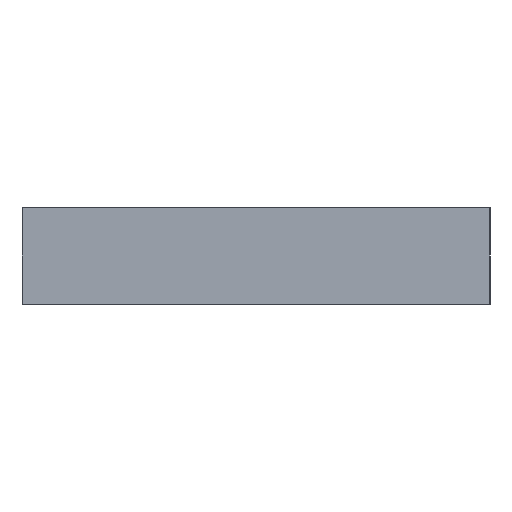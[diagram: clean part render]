
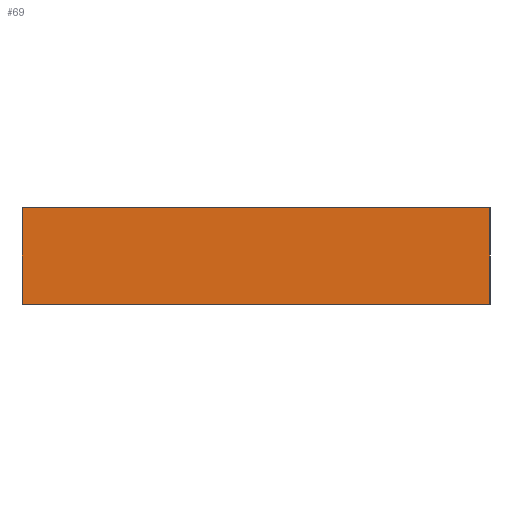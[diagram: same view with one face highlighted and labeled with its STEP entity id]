
A CAD part, left-side view. The second image highlights one B-rep face of the part: STEP entity #69.
In plain terms, the highlighted planar face has unit normal (-1, 0, 0).
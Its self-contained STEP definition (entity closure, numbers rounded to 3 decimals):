
#69 = ADVANCED_FACE( '', ( #143 ), #144, .F. );
#143 = FACE_OUTER_BOUND( '', #221, .T. );
#144 = PLANE( '', #222 );
#221 = EDGE_LOOP( '', ( #300, #301, #302, #303 ) );
#222 = AXIS2_PLACEMENT_3D( '', #304, #305, #306 );
#300 = ORIENTED_EDGE( '', *, *, #416, .T. );
#301 = ORIENTED_EDGE( '', *, *, #430, .F. );
#302 = ORIENTED_EDGE( '', *, *, #431, .F. );
#303 = ORIENTED_EDGE( '', *, *, #426, .T. );
#304 = CARTESIAN_POINT( '', ( -6., 0., 3.5 ) );
#305 = DIRECTION( '', ( 1., 0., 0. ) );
#306 = DIRECTION( '', ( 0., 0., -1. ) );
#416 = EDGE_CURVE( '', #464, #468, #470, .T. );
#426 = EDGE_CURVE( '', #488, #464, #489, .T. );
#430 = EDGE_CURVE( '', #494, #468, #495, .T. );
#431 = EDGE_CURVE( '', #488, #494, #496, .T. );
#464 = VERTEX_POINT( '', #538 );
#468 = VERTEX_POINT( '', #544 );
#470 = LINE( '', #547, #548 );
#488 = VERTEX_POINT( '', #568 );
#489 = LINE( '', #569, #570 );
#494 = VERTEX_POINT( '', #577 );
#495 = LINE( '', #578, #579 );
#496 = LINE( '', #580, #581 );
#538 = CARTESIAN_POINT( '', ( -6., 0., -3.5 ) );
#544 = CARTESIAN_POINT( '', ( -6., -34., -3.5 ) );
#547 = CARTESIAN_POINT( '', ( -6., 0., -3.5 ) );
#548 = VECTOR( '', #633, 1000. );
#568 = CARTESIAN_POINT( '', ( -6., 0., 3.5 ) );
#569 = CARTESIAN_POINT( '', ( -6., 0., 3.5 ) );
#570 = VECTOR( '', #654, 1000. );
#577 = CARTESIAN_POINT( '', ( -6., -34., 3.5 ) );
#578 = CARTESIAN_POINT( '', ( -6., -34., 3.5 ) );
#579 = VECTOR( '', #657, 1000. );
#580 = CARTESIAN_POINT( '', ( -6., 0., 3.5 ) );
#581 = VECTOR( '', #658, 1000. );
#633 = DIRECTION( '', ( 0., -1., 0. ) );
#654 = DIRECTION( '', ( 0., 0., -1. ) );
#657 = DIRECTION( '', ( 0., 0., -1. ) );
#658 = DIRECTION( '', ( 0., -1., 0. ) );
